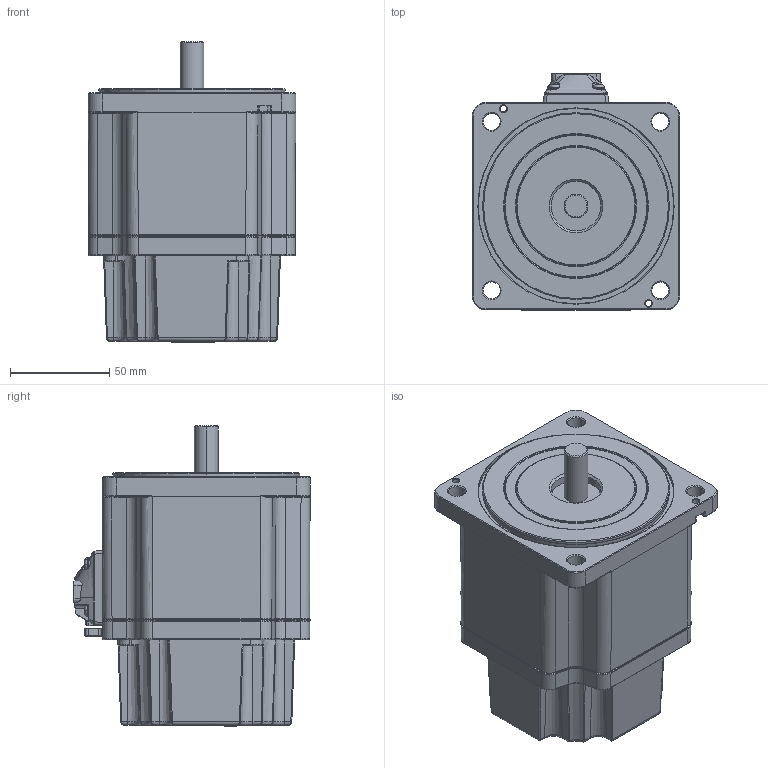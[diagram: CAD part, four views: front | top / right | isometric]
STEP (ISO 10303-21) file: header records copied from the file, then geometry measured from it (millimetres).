
FILE_DESCRIPTION (( 'STEP AP214' ), '1' );
FILE_NAME ('K10XH400N9-B.STEP', '2022-11-08T04:29:58', ( '' ), ( '' ), 'SwSTEP 2.0', 'SolidWorks 2022', '' );
FILE_SCHEMA (( 'AUTOMOTIVE_DESIGN' ));
Length unit declared in the file: millimetre
Products named in the file (11): K10XH400N9-B; M-COVER-ST01.stp.STEP.STEP; K10FH200NC.STEP; ACDC_200W.stp.STEP.STEP; GASKET-ST01 (2).stp.STEP.STEP; M-CASE-RE01ST01.stp.STEP.STEP; BRAKECOVER(90).stp; BRACKET-ST01.stp.STEP.STEP; M3xL12 PH.stp.STEP.STEP; M4xL12 PH.stp.STEP.STEP; K10FH200NC.STEP.STEP
Assembly tree (17 placements, depth 5):
  K10XH400N9-B
    K10FH200NC.STEP
      K10FH200NC.STEP.STEP
        ACDC_200W.stp.STEP.STEP
          M-CASE-RE01ST01.stp.STEP.STEP
          M-COVER-ST01.stp.STEP.STEP
          BRACKET-ST01.stp.STEP.STEP
          GASKET-ST01 (2).stp.STEP.STEP
          M4xL12 PH.stp.STEP.STEP  x4
          M3xL12 PH.stp.STEP.STEP  x4
    BRAKECOVER(90).stp  x2
Bounding box: 104.5 x 118.87 x 151 mm (x, y, z)
Volume: 886840.6 mm3; surface area: 164876.1 mm2
Topology: 14 solids, 19 shells, 2464 faces, 6394 edges, 3949 vertices
Faces by surface type: cylinder 1074, plane 593, bspline 382, torus 215, cone 188, sphere 12
Entity records: 67284 total; most frequent: CARTESIAN_POINT 32934, ORIENTED_EDGE 7496, DIRECTION 6474, EDGE_CURVE 3748, AXIS2_PLACEMENT_3D 2415, VERTEX_POINT 2325, VECTOR 1644, LINE 1644
